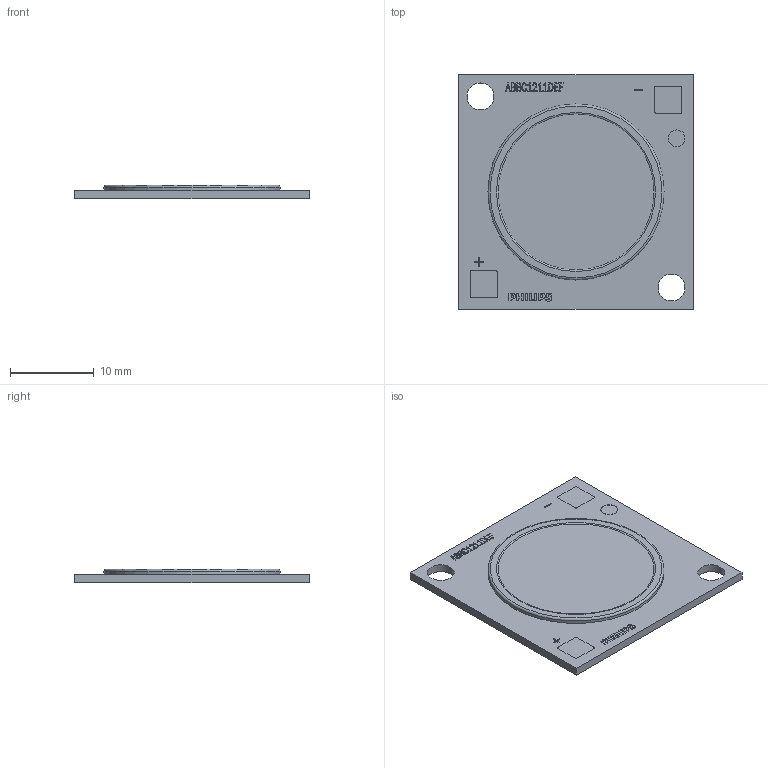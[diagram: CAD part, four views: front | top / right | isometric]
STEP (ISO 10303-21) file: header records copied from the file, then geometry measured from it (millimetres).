
FILE_DESCRIPTION(/* description */ (''),/* implementation_level */ '2;1');
FILE_NAME(/* name */ 'G7 HE+ 1211.stp',/* time_stamp */ '2023-03-14T18:16:03+08:00',/* author */ (''),/* organization */ (''),/* preprocessor_version */ 'ST-DEVELOPER v16',/* originating_system */ 'SIEMENS PLM Software NX 10.0',/* authorisation */ '');
FILE_SCHEMA (('AUTOMOTIVE_DESIGN { 1 0 10303 214 3 1 1 1 }'));
Length unit declared in the file: millimetre
Products named in the file (1): 31003E3C1351hwq3
Bounding box: 28 x 28 x 1.6 mm (x, y, z)
Volume: 954.9 mm3; surface area: 1703.3 mm2
Topology: 1 solids, 1 shells, 457 faces, 1264 edges, 843 vertices
Faces by surface type: plane 405, cylinder 27, extrusion 23, torus 2
Full cylindrical faces by diameter (mm): 21 x1
Entity records: 15134 total; most frequent: CARTESIAN_POINT 3593, ORIENTED_EDGE 2518, DIRECTION 2007, EDGE_CURVE 1259, VECTOR 1023, LINE 1000, VERTEX_POINT 841, EDGE_LOOP 498
